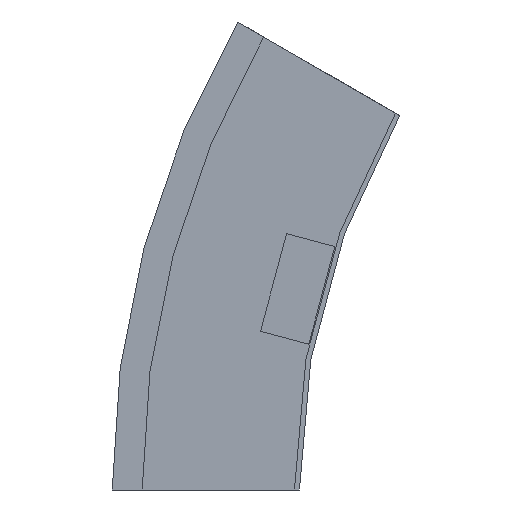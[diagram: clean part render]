
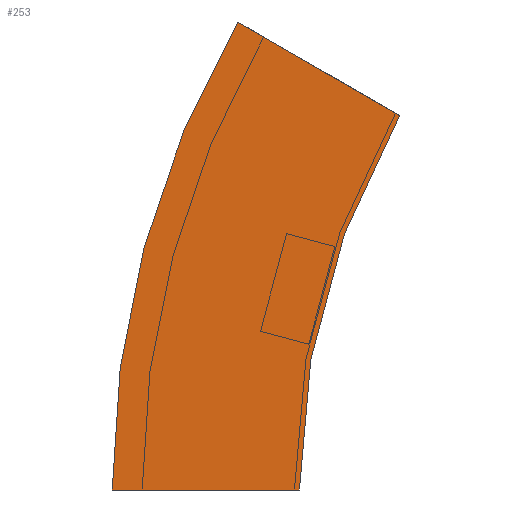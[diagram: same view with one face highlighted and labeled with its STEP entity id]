
A CAD part, left-side view. The second image highlights one B-rep face of the part: STEP entity #253.
In plain terms, the highlighted planar face has unit normal (-1, 0, 0) as drawn and (1, 0, 0) by its records, which use the part's own axes.
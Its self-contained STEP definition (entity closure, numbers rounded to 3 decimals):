
#42 = DIRECTION ( 'NONE',  ( 1., 0., 0. ) ) ;
#45 = FACE_OUTER_BOUND ( 'NONE', #65, .T. ) ;
#65 = EDGE_LOOP ( 'NONE', ( #546, #176, #559, #152 ) ) ;
#81 = VECTOR ( 'NONE', #308, 1000. ) ;
#111 = VERTEX_POINT ( 'NONE', #486 ) ;
#142 = DIRECTION ( 'NONE',  ( 0., 0.866, 0.5 ) ) ;
#151 = DIRECTION ( 'NONE',  ( 1., 0., 0. ) ) ;
#152 = ORIENTED_EDGE ( 'NONE', *, *, #175, .T. ) ;
#153 = EDGE_CURVE ( 'NONE', #111, #357, #492, .T. ) ;
#160 = CARTESIAN_POINT ( 'NONE',  ( 0., 75., 0. ) ) ;
#175 = EDGE_CURVE ( 'NONE', #111, #238, #191, .T. ) ;
#176 = ORIENTED_EDGE ( 'NONE', *, *, #520, .F. ) ;
#188 = DIRECTION ( 'NONE',  ( 0., 1., 0. ) ) ;
#191 = LINE ( 'NONE', #233, #81 ) ;
#206 = DIRECTION ( 'NONE',  ( 1., 0., 0. ) ) ;
#222 = CARTESIAN_POINT ( 'NONE',  ( 0., -40.192, 150. ) ) ;
#231 = AXIS2_PLACEMENT_3D ( 'NONE', #395, #151, #188 ) ;
#233 = CARTESIAN_POINT ( 'NONE',  ( 0., 0., 0. ) ) ;
#238 = VERTEX_POINT ( 'NONE', #160 ) ;
#241 = PLANE ( 'NONE',  #435 ) ;
#252 = CIRCLE ( 'NONE', #374, 375. ) ;
#253 = ADVANCED_FACE ( 'NONE', ( #45 ), #241, .T. ) ;
#279 = CARTESIAN_POINT ( 'NONE',  ( 0., 0., 0. ) ) ;
#294 = CARTESIAN_POINT ( 'NONE',  ( 0., -40.192, 150. ) ) ;
#308 = DIRECTION ( 'NONE',  ( 0., 1., 0. ) ) ;
#331 = CARTESIAN_POINT ( 'NONE',  ( 0., 24.76, 187.5 ) ) ;
#344 = VECTOR ( 'NONE', #142, 1000. ) ;
#345 = VERTEX_POINT ( 'NONE', #331 ) ;
#357 = VERTEX_POINT ( 'NONE', #294 ) ;
#374 = AXIS2_PLACEMENT_3D ( 'NONE', #458, #206, #504 ) ;
#395 = CARTESIAN_POINT ( 'NONE',  ( 0., -300., 0. ) ) ;
#401 = EDGE_CURVE ( 'NONE', #238, #345, #252, .T. ) ;
#419 = DIRECTION ( 'NONE',  ( 0., 0., -1. ) ) ;
#435 = AXIS2_PLACEMENT_3D ( 'NONE', #279, #42, #419 ) ;
#458 = CARTESIAN_POINT ( 'NONE',  ( 0., -300., 0. ) ) ;
#486 = CARTESIAN_POINT ( 'NONE',  ( 0., 0., 0. ) ) ;
#492 = CIRCLE ( 'NONE', #231, 300. ) ;
#504 = DIRECTION ( 'NONE',  ( 0., 1., 0. ) ) ;
#520 = EDGE_CURVE ( 'NONE', #357, #345, #528, .T. ) ;
#528 = LINE ( 'NONE', #222, #344 ) ;
#546 = ORIENTED_EDGE ( 'NONE', *, *, #401, .T. ) ;
#559 = ORIENTED_EDGE ( 'NONE', *, *, #153, .F. ) ;
